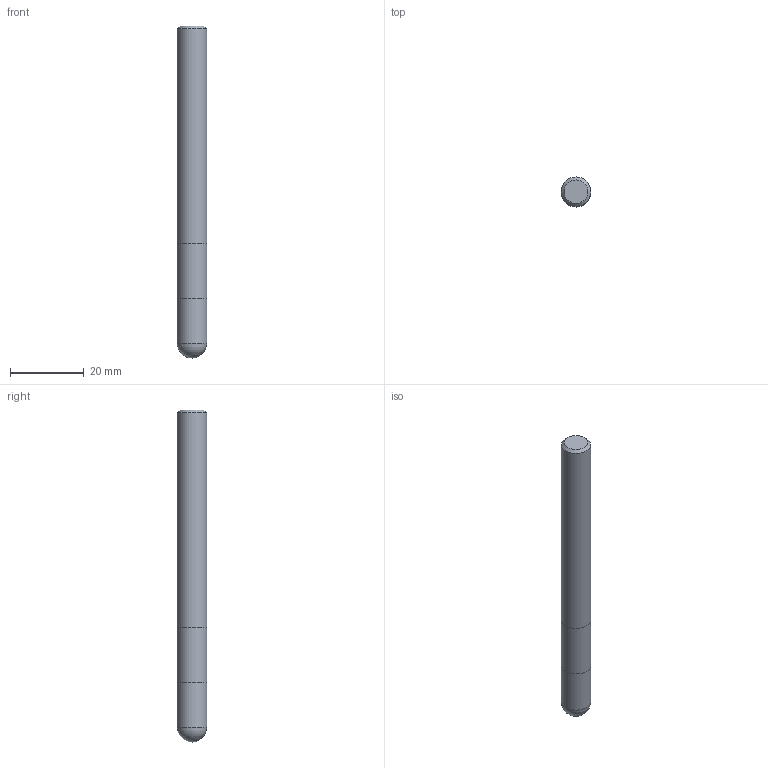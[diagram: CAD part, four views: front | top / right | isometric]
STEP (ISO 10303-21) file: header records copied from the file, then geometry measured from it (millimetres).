
FILE_DESCRIPTION((''),'2;1');
FILE_NAME('C:\Users\nsx150\AppData\Local\Temp\Mastercam 2021\EUJSUNXURU\TEMP.step','2021-04-22T10:26:44',(''),(''),'STEP Write','Mastercam 2021 ... CNC Software, Inc.','');
FILE_SCHEMA(('AUTOMOTIVE_DESIGN'));
Length unit declared in the file: millimetre
Products named in the file (1): None
Bounding box: 8 x 8 x 90 mm (x, y, z)
Volume: 4449.4 mm3; surface area: 2400.1 mm2
Topology: 2 solids, 2 shells, 8 faces, 12 edges, 7 vertices
Faces by surface type: plane 3, cylinder 3, sphere 1, cone 1
Full cylindrical faces by diameter (mm): 8 x3
Entity records: 190 total; most frequent: DIRECTION 32, CARTESIAN_POINT 22, AXIS2_PLACEMENT_3D 16, ORIENTED_EDGE 12, EDGE_LOOP 12, STYLED_ITEM 11, ADVANCED_FACE 8, FACE_BOUND 7
